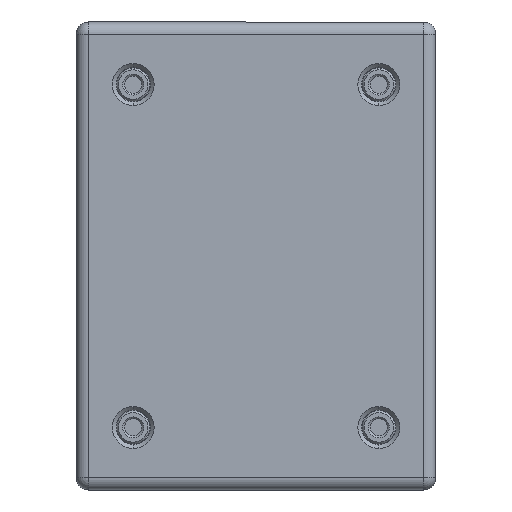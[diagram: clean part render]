
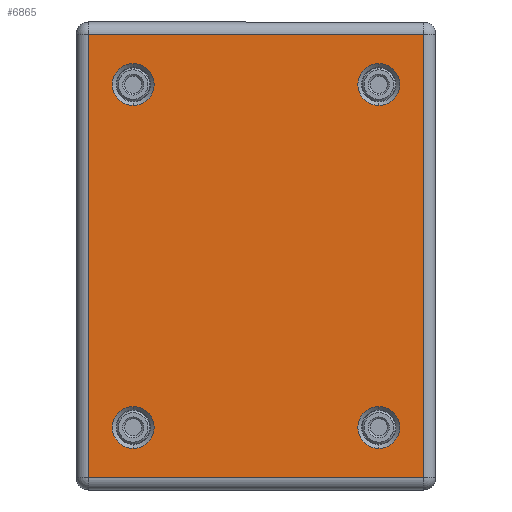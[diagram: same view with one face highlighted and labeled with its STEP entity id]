
A CAD part, front view. The second image highlights one B-rep face of the part: STEP entity #6865.
In plain terms, the highlighted planar face has unit normal (0, -1, 0).
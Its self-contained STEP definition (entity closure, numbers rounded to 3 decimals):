
#11 = EDGE_LOOP ( 'NONE', ( #6618, #6617 ) ) ;
#12 = EDGE_LOOP ( 'NONE', ( #6616, #6615 ) ) ;
#13 = EDGE_LOOP ( 'NONE', ( #6614, #6612 ) ) ;
#14 = EDGE_LOOP ( 'NONE', ( #6611, #6610 ) ) ;
#15 = EDGE_LOOP ( 'NONE', ( #6609, #6608, #6607, #6606 ) ) ;
#300 = CIRCLE ( 'NONE', #4796, 11. ) ;
#306 = CIRCLE ( 'NONE', #4798, 11. ) ;
#312 = CIRCLE ( 'NONE', #4800, 11. ) ;
#374 = CIRCLE ( 'NONE', #4813, 11. ) ;
#375 = CIRCLE ( 'NONE', #4814, 11. ) ;
#376 = CIRCLE ( 'NONE', #4815, 11. ) ;
#377 = LINE ( 'NONE', #5368, #379 ) ;
#378 = CIRCLE ( 'NONE', #4816, 11. ) ;
#379 = VECTOR ( 'NONE', #5369, 1000. ) ;
#380 = LINE ( 'NONE', #5370, #381 ) ;
#381 = VECTOR ( 'NONE', #5371, 1000. ) ;
#382 = LINE ( 'NONE', #5372, #383 ) ;
#383 = VECTOR ( 'NONE', #5373, 1000. ) ;
#384 = LINE ( 'NONE', #5374, #385 ) ;
#385 = VECTOR ( 'NONE', #5375, 1000. ) ;
#1102 = CIRCLE ( 'NONE', #1227, 11. ) ;
#1120 = FACE_BOUND ( 'NONE', #11, .T. ) ;
#1121 = FACE_BOUND ( 'NONE', #12, .T. ) ;
#1122 = FACE_BOUND ( 'NONE', #13, .T. ) ;
#1123 = FACE_BOUND ( 'NONE', #14, .T. ) ;
#1124 = FACE_OUTER_BOUND ( 'NONE', #15, .T. ) ;
#1227 = AXIS2_PLACEMENT_3D ( 'NONE', #1943, #1944, #1945 ) ;
#1236 = AXIS2_PLACEMENT_3D ( 'NONE', #2298, #2299, #2300 ) ;
#1943 = CARTESIAN_POINT ( 'NONE',  ( -64.5, 0., 90. ) ) ;
#1944 = DIRECTION ( 'NONE',  ( 0., 1., 0. ) ) ;
#1945 = DIRECTION ( 'NONE',  ( 0., 0., 1. ) ) ;
#1954 = CARTESIAN_POINT ( 'NONE',  ( -64.5, 0., 79. ) ) ;
#1961 = CARTESIAN_POINT ( 'NONE',  ( -88., 0., 116.375 ) ) ;
#1966 = CARTESIAN_POINT ( 'NONE',  ( 88., 0., 116.375 ) ) ;
#1969 = CARTESIAN_POINT ( 'NONE',  ( -64.5, 0., 101. ) ) ;
#1978 = CARTESIAN_POINT ( 'NONE',  ( 64.5, 0., -101. ) ) ;
#1980 = CARTESIAN_POINT ( 'NONE',  ( 64.5, 0., -79. ) ) ;
#1983 = CARTESIAN_POINT ( 'NONE',  ( -64.5, 0., -101. ) ) ;
#1986 = CARTESIAN_POINT ( 'NONE',  ( -64.5, 0., -79. ) ) ;
#1989 = CARTESIAN_POINT ( 'NONE',  ( 64.5, 0., 101. ) ) ;
#1994 = CARTESIAN_POINT ( 'NONE',  ( 64.5, 0., 79. ) ) ;
#2004 = CARTESIAN_POINT ( 'NONE',  ( -88., 0., -116.375 ) ) ;
#2005 = CARTESIAN_POINT ( 'NONE',  ( 88., 0., -116.375 ) ) ;
#2297 = PLANE ( 'NONE',  #1236 ) ;
#2298 = CARTESIAN_POINT ( 'NONE',  ( 94.5, 0., 122.875 ) ) ;
#2299 = DIRECTION ( 'NONE',  ( 0., 1., 0. ) ) ;
#2300 = DIRECTION ( 'NONE',  ( 0., 0., 1. ) ) ;
#4281 = EDGE_CURVE ( 'NONE', #4967, #4962, #300, .T. ) ;
#4285 = EDGE_CURVE ( 'NONE', #4956, #4959, #306, .T. ) ;
#4289 = EDGE_CURVE ( 'NONE', #4951, #4953, #312, .T. ) ;
#4327 = EDGE_CURVE ( 'NONE', #4953, #4951, #374, .T. ) ;
#4328 = EDGE_CURVE ( 'NONE', #4959, #4956, #375, .T. ) ;
#4329 = EDGE_CURVE ( 'NONE', #4962, #4967, #376, .T. ) ;
#4330 = EDGE_CURVE ( 'NONE', #4942, #4927, #378, .T. ) ;
#4331 = EDGE_CURVE ( 'NONE', #4939, #4934, #377, .T. ) ;
#4332 = EDGE_CURVE ( 'NONE', #4934, #4977, #380, .T. ) ;
#4333 = EDGE_CURVE ( 'NONE', #4977, #4978, #382, .T. ) ;
#4334 = EDGE_CURVE ( 'NONE', #4978, #4939, #384, .T. ) ;
#4792 = EDGE_CURVE ( 'NONE', #4927, #4942, #1102, .T. ) ;
#4796 = AXIS2_PLACEMENT_3D ( 'NONE', #5244, #5245, #5246 ) ;
#4798 = AXIS2_PLACEMENT_3D ( 'NONE', #5254, #5255, #5256 ) ;
#4800 = AXIS2_PLACEMENT_3D ( 'NONE', #5264, #5265, #5266 ) ;
#4813 = AXIS2_PLACEMENT_3D ( 'NONE', #5356, #5357, #5358 ) ;
#4814 = AXIS2_PLACEMENT_3D ( 'NONE', #5359, #5360, #5361 ) ;
#4815 = AXIS2_PLACEMENT_3D ( 'NONE', #5362, #5363, #5364 ) ;
#4816 = AXIS2_PLACEMENT_3D ( 'NONE', #5365, #5366, #5367 ) ;
#4927 = VERTEX_POINT ( 'NONE', #1954 ) ;
#4934 = VERTEX_POINT ( 'NONE', #1961 ) ;
#4939 = VERTEX_POINT ( 'NONE', #1966 ) ;
#4942 = VERTEX_POINT ( 'NONE', #1969 ) ;
#4951 = VERTEX_POINT ( 'NONE', #1978 ) ;
#4953 = VERTEX_POINT ( 'NONE', #1980 ) ;
#4956 = VERTEX_POINT ( 'NONE', #1983 ) ;
#4959 = VERTEX_POINT ( 'NONE', #1986 ) ;
#4962 = VERTEX_POINT ( 'NONE', #1989 ) ;
#4967 = VERTEX_POINT ( 'NONE', #1994 ) ;
#4977 = VERTEX_POINT ( 'NONE', #2004 ) ;
#4978 = VERTEX_POINT ( 'NONE', #2005 ) ;
#5244 = CARTESIAN_POINT ( 'NONE',  ( 64.5, 0., 90. ) ) ;
#5245 = DIRECTION ( 'NONE',  ( 0., 1., 0. ) ) ;
#5246 = DIRECTION ( 'NONE',  ( 0., 0., 1. ) ) ;
#5254 = CARTESIAN_POINT ( 'NONE',  ( -64.5, 0., -90. ) ) ;
#5255 = DIRECTION ( 'NONE',  ( 0., 1., 0. ) ) ;
#5256 = DIRECTION ( 'NONE',  ( 0., 0., 1. ) ) ;
#5264 = CARTESIAN_POINT ( 'NONE',  ( 64.5, 0., -90. ) ) ;
#5265 = DIRECTION ( 'NONE',  ( 0., 1., 0. ) ) ;
#5266 = DIRECTION ( 'NONE',  ( 0., 0., 1. ) ) ;
#5356 = CARTESIAN_POINT ( 'NONE',  ( 64.5, 0., -90. ) ) ;
#5357 = DIRECTION ( 'NONE',  ( 0., 1., 0. ) ) ;
#5358 = DIRECTION ( 'NONE',  ( 0., 0., 1. ) ) ;
#5359 = CARTESIAN_POINT ( 'NONE',  ( -64.5, 0., -90. ) ) ;
#5360 = DIRECTION ( 'NONE',  ( 0., 1., 0. ) ) ;
#5361 = DIRECTION ( 'NONE',  ( 0., 0., 1. ) ) ;
#5362 = CARTESIAN_POINT ( 'NONE',  ( 64.5, 0., 90. ) ) ;
#5363 = DIRECTION ( 'NONE',  ( 0., 1., 0. ) ) ;
#5364 = DIRECTION ( 'NONE',  ( 0., 0., 1. ) ) ;
#5365 = CARTESIAN_POINT ( 'NONE',  ( -64.5, 0., 90. ) ) ;
#5366 = DIRECTION ( 'NONE',  ( 0., 1., 0. ) ) ;
#5367 = DIRECTION ( 'NONE',  ( 0., 0., 1. ) ) ;
#5368 = CARTESIAN_POINT ( 'NONE',  ( 94.5, 0., 116.375 ) ) ;
#5369 = DIRECTION ( 'NONE',  ( -1., 0., 0. ) ) ;
#5370 = CARTESIAN_POINT ( 'NONE',  ( -88., 0., 122.875 ) ) ;
#5371 = DIRECTION ( 'NONE',  ( 0., 0., -1. ) ) ;
#5372 = CARTESIAN_POINT ( 'NONE',  ( 94.5, 0., -116.375 ) ) ;
#5373 = DIRECTION ( 'NONE',  ( 1., 0., 0. ) ) ;
#5374 = CARTESIAN_POINT ( 'NONE',  ( 88., 0., 122.875 ) ) ;
#5375 = DIRECTION ( 'NONE',  ( 0., 0., 1. ) ) ;
#6606 = ORIENTED_EDGE ( 'NONE', *, *, #4334, .T. ) ;
#6607 = ORIENTED_EDGE ( 'NONE', *, *, #4333, .T. ) ;
#6608 = ORIENTED_EDGE ( 'NONE', *, *, #4332, .T. ) ;
#6609 = ORIENTED_EDGE ( 'NONE', *, *, #4331, .T. ) ;
#6610 = ORIENTED_EDGE ( 'NONE', *, *, #4330, .T. ) ;
#6611 = ORIENTED_EDGE ( 'NONE', *, *, #4792, .T. ) ;
#6612 = ORIENTED_EDGE ( 'NONE', *, *, #4329, .T. ) ;
#6614 = ORIENTED_EDGE ( 'NONE', *, *, #4281, .T. ) ;
#6615 = ORIENTED_EDGE ( 'NONE', *, *, #4328, .T. ) ;
#6616 = ORIENTED_EDGE ( 'NONE', *, *, #4285, .T. ) ;
#6617 = ORIENTED_EDGE ( 'NONE', *, *, #4327, .T. ) ;
#6618 = ORIENTED_EDGE ( 'NONE', *, *, #4289, .T. ) ;
#6865 = ADVANCED_FACE ( 'NONE', ( #1120, #1121, #1122, #1123, #1124 ), #2297, .F. ) ;
